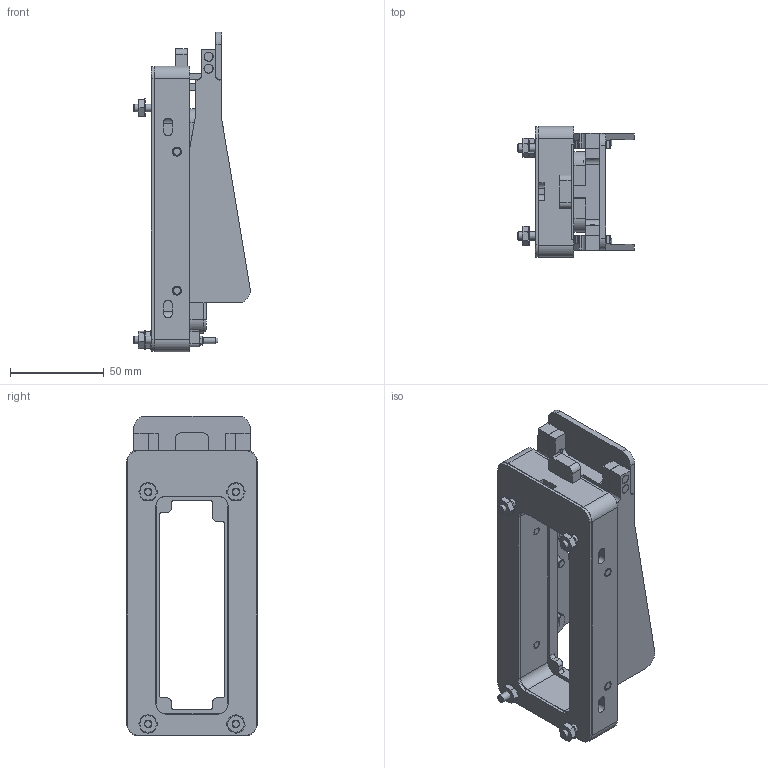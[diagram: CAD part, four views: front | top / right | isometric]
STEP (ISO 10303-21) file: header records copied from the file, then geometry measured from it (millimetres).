
FILE_DESCRIPTION((''),'2;1');
FILE_NAME('O:\customer models\301000-02-STP.stp','2011-09-30T08:58:27',('davecooper'),(''),'Autodesk Inventor 2011','Autodesk Inventor 2011','');
FILE_SCHEMA(('CONFIG_CONTROL_DESIGN'));
Length unit declared in the file: inch
Products named in the file (1): 301000-02-cu
Bounding box: 62.15 x 69.85 x 170.47 mm (x, y, z)
Surface area: 97179.7 mm2 (no closed solid volume)
Topology: 0 solids, 46 shells, 870 faces, 2153 edges, 1392 vertices
Faces by surface type: plane 438, cylinder 302, cone 92, torus 32, sphere 4, bspline 2
Full cylindrical faces by diameter (mm): 0.051 x2, 2.845 x10, 3.175 x8, 3.505 x4, 4.166 x4, 4.636 x4, 4.648 x4, 4.737 x2, 4.763 x4, 4.826 x4, 4.851 x4, 4.902 x4, 5.08 x4, 6.858 x4, 7.144 x4, 11.125 x4
Entity records: 29054 total; most frequent: CARTESIAN_POINT 7646, DIRECTION 4339, ORIENTED_EDGE 3966, EDGE_CURVE 1983, AXIS2_PLACEMENT_3D 1607, VERTEX_POINT 1368, VECTOR 1125, LINE 1125
